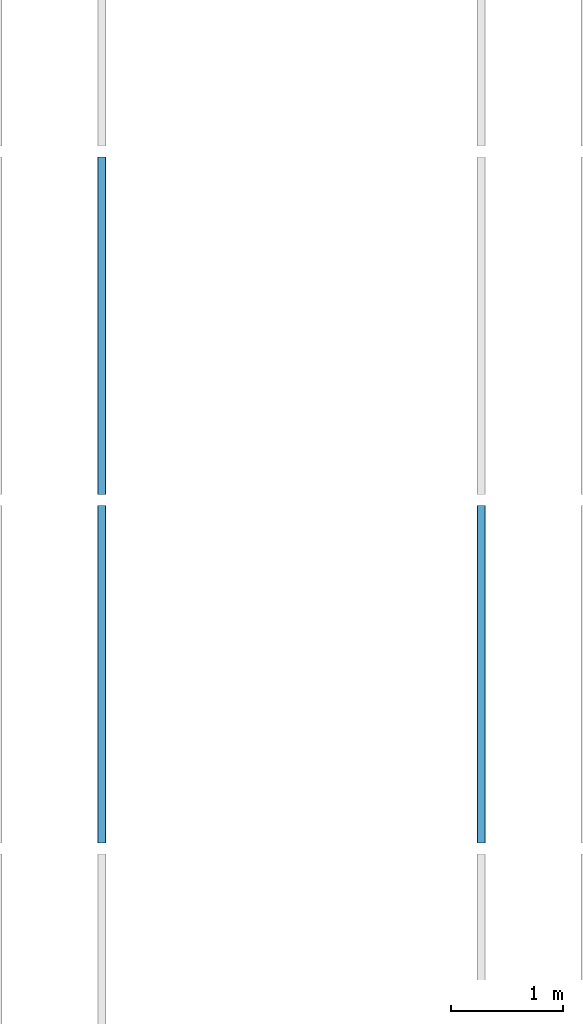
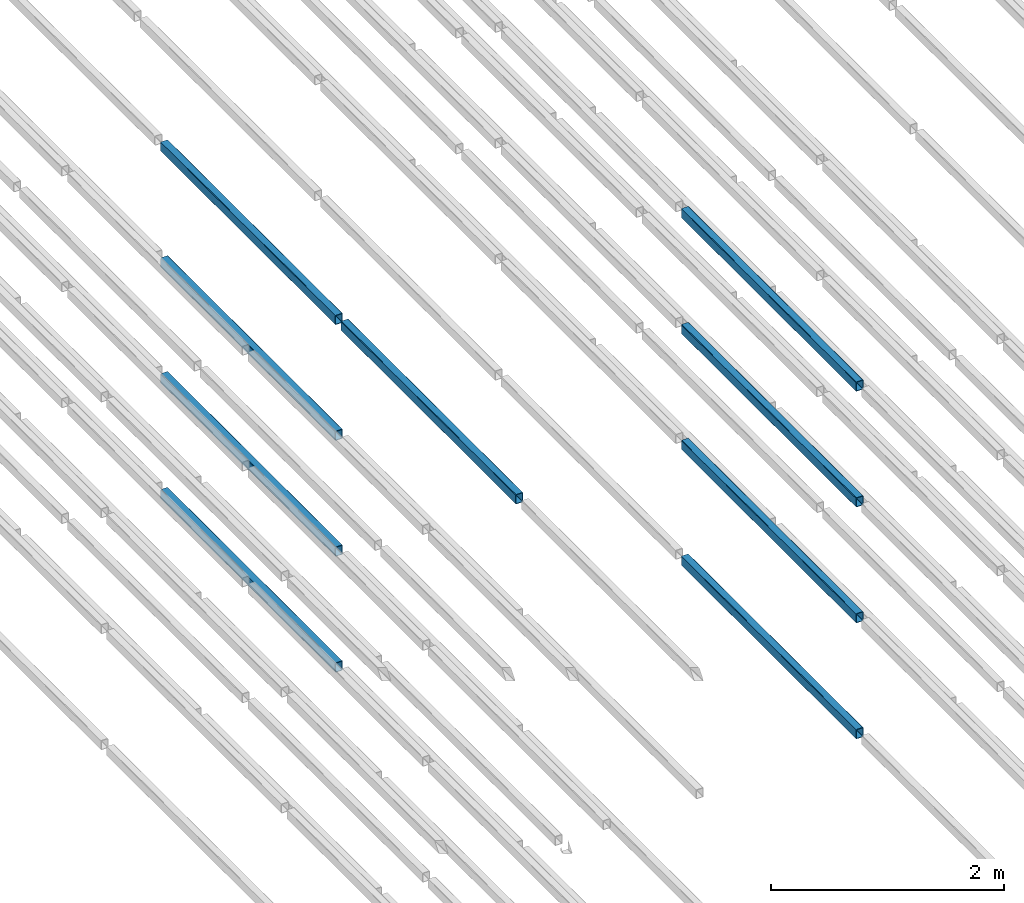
# One storey, part 50 of 290: 9 beams.
"""IFC2X3 building model written with IfcOpenShell, lengths in metres."""

import ifcopenshell
import ifcopenshell.guid

model = None  # the IFC model being written
_history = None  # IfcOwnerHistory: only IFC2X3 demands one
_inside = {}  # id of a spatial element -> (the spatial element, [elements in it])
_under = {}  # id of a project, library or spatial element -> (it, [spatial elements below it])
_declared = {}  # id of a project -> (the project, [libraries it declares])
_typed = {}  # id of a type object -> (the type object, [elements of that type])
_made_of = {}  # id of a material, layer set ... -> (it, [elements and type objects made of it])


def new_model(schema):
    """Start an empty IFC model of exactly this schema.

    Asked for "IFC4X3", IfcOpenShell would pick the latest addendum, in which some entities
    have other attributes; the version numbers below select the first issue.
    IFC2X3 requires an IfcOwnerHistory on every rooted entity: one is made here for all.
    """
    global model, _history
    if schema == "IFC4X3":
        model = ifcopenshell.file(schema_version=(4, 3, 0, 0))
    else:
        model = ifcopenshell.file(schema=schema)
    _inside.clear()
    _under.clear()
    _declared.clear()
    _typed.clear()
    _made_of.clear()
    _history = None
    if model.schema == "IFC2X3":
        org = make("IfcOrganization", Name="unknown")
        user = make(
            "IfcPersonAndOrganization",
            ThePerson=make("IfcPerson", FamilyName="unknown"),
            TheOrganization=org,
        )
        app = make(
            "IfcApplication",
            ApplicationDeveloper=org,
            Version="unknown",
            ApplicationFullName="unknown",
            ApplicationIdentifier="unknown",
        )
        _history = make(
            "IfcOwnerHistory",
            OwningUser=user,
            OwningApplication=app,
            ChangeAction="ADDED",
            CreationDate=0,
        )
    return model


def make(cls, **values):
    """One entity of the class cls with the attributes given. An attribute that is None is left unset."""
    return model.create_entity(
        cls, **{name: value for name, value in values.items() if value is not None}
    )


def entity(cls, *values):
    """Any entity or typed value of the class cls, its attributes in the order of the schema. None: left unset."""
    e = model.create_entity(cls)
    for i, value in enumerate(values):
        if value is not None:
            e[i] = value
    return e


def rooted(cls, **values):
    """An entity with a GlobalId (a new one), such as an element, a storey or a relation."""
    return make(cls, GlobalId=ifcopenshell.guid.new(), OwnerHistory=_history, **values)


def si_unit(unit_type, name, prefix=None):
    """IfcSIUnit, for example si_unit("LENGTHUNIT", "METRE", prefix="MILLI")."""
    return make("IfcSIUnit", UnitType=unit_type, Prefix=prefix, Name=name)


def converted_unit(unit_type, name, factor, base, dimensions=None, offset=None):
    """IfcConversionBasedUnit, such as the inch: factor (a typed value) times the base unit."""
    return make(
        "IfcConversionBasedUnit"
        if offset is None
        else "IfcConversionBasedUnitWithOffset",
        ConversionOffset=offset,
        Dimensions=None
        if dimensions is None
        else entity("IfcDimensionalExponents", *dimensions),
        UnitType=unit_type,
        Name=name,
        ConversionFactor=make(
            "IfcMeasureWithUnit", ValueComponent=factor, UnitComponent=base
        ),
    )


def derived_unit(unit_type, elements):
    """IfcDerivedUnit: a product of units, each with its exponent."""
    return make(
        "IfcDerivedUnit",
        Elements=[
            make("IfcDerivedUnitElement", Unit=unit, Exponent=power)
            for unit, power in elements
        ],
        UnitType=unit_type,
    )


def assignment(units):
    """IfcUnitAssignment: the units of a project."""
    return None if units is None else make("IfcUnitAssignment", Units=units)


def point(xyz):
    """IfcCartesianPoint."""
    return None if xyz is None else make("IfcCartesianPoint", Coordinates=xyz)


def direction(xyz):
    """IfcDirection."""
    return None if xyz is None else make("IfcDirection", DirectionRatios=xyz)


def frame(location, z_axis=None, x_axis=None):
    """IfcAxis2Placement3D, a coordinate frame: its origin and axes. An axis left out is left unset."""
    return make(
        "IfcAxis2Placement3D",
        Location=point(location),
        Axis=direction(z_axis),
        RefDirection=direction(x_axis),
    )


def frame_2d(location, x_axis=None):
    """IfcAxis2Placement2D, a coordinate frame in the plane: its origin and x axis."""
    return make(
        "IfcAxis2Placement2D", Location=point(location), RefDirection=direction(x_axis)
    )


def origin():
    """The frame at (0, 0, 0) with its axes left unset."""
    return frame((0.0, 0.0, 0.0))


def place(relative_to, where):
    """IfcLocalPlacement: puts the frame where relative to a parent placement (None: the world)."""
    return make(
        "IfcLocalPlacement", PlacementRelTo=relative_to, RelativePlacement=where
    )


def context(
    kind, dimensions, precision=None, world=None, true_north=None, identifier=None
):
    """IfcGeometricRepresentationContext, for example the 3D "Model" context."""
    return make(
        "IfcGeometricRepresentationContext",
        ContextIdentifier=identifier,
        ContextType=kind,
        CoordinateSpaceDimension=dimensions,
        Precision=precision,
        WorldCoordinateSystem=world,
        TrueNorth=true_north,
    )


def subcontext(parent, identifier, kind, view, scale=None):
    """IfcGeometricRepresentationSubContext, for example "Body" below "Model"."""
    return make(
        "IfcGeometricRepresentationSubContext",
        ContextIdentifier=identifier,
        ContextType=kind,
        ParentContext=parent,
        TargetScale=scale,
        TargetView=view,
    )


def project(units=None, contexts=None):
    """IfcProject with its units and contexts."""
    return rooted(
        "IfcProject",
        Name="project",
        RepresentationContexts=contexts,
        UnitsInContext=assignment(units),
    )


def spatial(cls, under=None, at=None, **own):
    """A site, building, storey or space (cls), placed at a placement, below another one or the project."""
    s = rooted(cls, ObjectPlacement=at, **own)
    if under is not None:
        _under.setdefault(under.id(), (under, []))[1].append(s)
    return s


def polyline(points):
    """IfcPolyline through the points."""
    return make("IfcPolyline", Points=[point(p) for p in points])


def circle_curve(where, radius):
    """IfcCircle in the frame where."""
    return make("IfcCircle", Position=where, Radius=radius)


def parameter(value):
    """IfcParameterValue: where a trimmed curve begins or ends, as a parameter of its basis curve."""
    return model.create_entity("IfcParameterValue", value)


def trimmed(basis, trim1, trim2, sense, master):
    """IfcTrimmedCurve: the piece of a basis curve between two trims."""
    return make(
        "IfcTrimmedCurve",
        BasisCurve=basis,
        Trim1=trim1,
        Trim2=trim2,
        SenseAgreement=sense,
        MasterRepresentation=master,
    )


def segment(curve, same_sense, transition):
    """IfcCompositeCurveSegment."""
    return make(
        "IfcCompositeCurveSegment",
        Transition=transition,
        SameSense=same_sense,
        ParentCurve=curve,
    )


def composite_curve(segments, self_intersect=None):
    """IfcCompositeCurve: segments joined end to end."""
    return make("IfcCompositeCurve", Segments=segments, SelfIntersect=self_intersect)


def outline(outer, holes=None, kind="AREA"):
    """IfcArbitraryClosedProfileDef: a profile drawn as a closed curve; with holes, ...WithVoids."""
    if holes is None:
        return make("IfcArbitraryClosedProfileDef", ProfileType=kind, OuterCurve=outer)
    return make(
        "IfcArbitraryProfileDefWithVoids",
        ProfileType=kind,
        OuterCurve=outer,
        InnerCurves=holes,
    )


def extrude(swept, where, along, depth):
    """IfcExtrudedAreaSolid: the profile swept, set in the frame where, extruded along a direction by depth."""
    return make(
        "IfcExtrudedAreaSolid",
        SweptArea=swept,
        Position=where,
        ExtrudedDirection=direction(along),
        Depth=depth,
    )


def shape(context_of_items, identifier, shape_type, items):
    """IfcShapeRepresentation: the items that make up one representation, for example the "Body"."""
    return make(
        "IfcShapeRepresentation",
        ContextOfItems=context_of_items,
        RepresentationIdentifier=identifier,
        RepresentationType=shape_type,
        Items=items,
    )


def material(Name=None, Category=None):
    """IfcMaterial."""
    return make("IfcMaterial", Name=Name, Category=Category)


def made_of(thing, what):
    """Note that an element or type object is made of a material, layer set ...; save() writes the relation."""
    if what is not None:
        _made_of.setdefault(what.id(), (what, []))[1].append(thing)
    return thing


def type_object(cls, material=None, **own):
    """A type object (cls), such as IfcWallType, which elements share."""
    return made_of(rooted(cls, **own), material)


def element(
    cls,
    number,
    at=None,
    inside=None,
    cuts=None,
    type_object=None,
    material=None,
    context=None,
    identifier="Body",
    shape_type=None,
    held_by="IfcProductDefinitionShape",
    body=None,
    shapes=None,
    **own,
):
    """One element of the class cls, such as IfcWall. Its Tag is "e" and its number.

    at: its placement. inside: the storey or other place that contains it. cuts: it is an
    opening in that element (IfcRelVoidsElement). A single representation is given by context,
    identifier, shape_type and body (its items); several are given by shapes. held_by: the class
    of the entity that holds the representations. save() writes the other relations.
    """
    e = rooted(cls, Tag="e%d" % number, ObjectPlacement=at, **own)
    if body is not None:
        shapes = [shape(context, identifier, shape_type, body)]
    if shapes is not None:
        e.Representation = make(held_by, Representations=shapes)
    if inside is not None:
        _inside.setdefault(inside.id(), (inside, []))[1].append(e)
    if cuts is not None:
        rooted(
            "IfcRelVoidsElement", RelatingBuildingElement=cuts, RelatedOpeningElement=e
        )
    if type_object is not None:
        _typed.setdefault(type_object.id(), (type_object, []))[1].append(e)
    return made_of(e, material)


def aggregate(whole, parts):
    """IfcRelAggregates: a whole, such as a stair, and the parts it consists of."""
    return rooted("IfcRelAggregates", RelatingObject=whole, RelatedObjects=parts)


def save(model, path):
    """Write the relations noted so far, then the file.

    IfcRelAggregates (storeys below a building ...), IfcRelContainedInSpatialStructure (elements
    in a storey), IfcRelDefinesByType, IfcRelAssociatesMaterial and IfcRelDeclares: one each for
    every whole, place, type object, material and project.
    """
    for whole, parts in _under.values():
        aggregate(whole, parts)
    for where, things in _inside.values():
        rooted(
            "IfcRelContainedInSpatialStructure",
            RelatedElements=things,
            RelatingStructure=where,
        )
    for kind, things in _typed.values():
        rooted("IfcRelDefinesByType", RelatedObjects=things, RelatingType=kind)
    for what, things in _made_of.values():
        rooted("IfcRelAssociatesMaterial", RelatedObjects=things, RelatingMaterial=what)
    for by, libraries in _declared.values():
        rooted("IfcRelDeclares", RelatingContext=by, RelatedDefinitions=libraries)
    model.write(path)


model = new_model("IFC2X3")

# Units and contexts
model_context = context("Model", 3, precision=1e-05, world=origin(), true_north=direction((6.12303176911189e-17, 1.0)))
body_context = subcontext(model_context, "Body", "Model", "MODEL_VIEW")
ifc_project = project(units=[si_unit("LENGTHUNIT", "METRE"), si_unit("AREAUNIT", "SQUARE_METRE"), si_unit("VOLUMEUNIT", "CUBIC_METRE"), converted_unit("PLANEANGLEUNIT", "DEGREE", entity("IfcRatioMeasure", 0.0174532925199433), si_unit("PLANEANGLEUNIT", "RADIAN"), dimensions=[0, 0, 0, 0, 0, 0, 0]), si_unit("MASSUNIT", "GRAM", prefix="KILO"), derived_unit("MASSDENSITYUNIT", [(si_unit("MASSUNIT", "GRAM", prefix="KILO"), 1), (si_unit("LENGTHUNIT", "METRE"), -3)]), derived_unit("MOMENTOFINERTIAUNIT", [(si_unit("LENGTHUNIT", "METRE"), 4)]), si_unit("TIMEUNIT", "SECOND"), si_unit("FREQUENCYUNIT", "HERTZ"), si_unit("THERMODYNAMICTEMPERATUREUNIT", "DEGREE_CELSIUS"), derived_unit("THERMALTRANSMITTANCEUNIT", [(si_unit("MASSUNIT", "GRAM", prefix="KILO"), 1), (si_unit("THERMODYNAMICTEMPERATUREUNIT", "KELVIN"), -1), (si_unit("TIMEUNIT", "SECOND"), -3)]), derived_unit("VOLUMETRICFLOWRATEUNIT", [(si_unit("LENGTHUNIT", "METRE"), 3), (si_unit("TIMEUNIT", "SECOND"), -1)]), si_unit("ELECTRICCURRENTUNIT", "AMPERE"), si_unit("ELECTRICVOLTAGEUNIT", "VOLT"), si_unit("POWERUNIT", "WATT"), si_unit("FORCEUNIT", "NEWTON", prefix="KILO"), si_unit("ILLUMINANCEUNIT", "LUX"), si_unit("LUMINOUSFLUXUNIT", "LUMEN"), si_unit("LUMINOUSINTENSITYUNIT", "CANDELA"), derived_unit("USERDEFINED", [(si_unit("MASSUNIT", "GRAM", prefix="KILO"), -1), (si_unit("LENGTHUNIT", "METRE"), -2), (si_unit("TIMEUNIT", "SECOND"), 3), (si_unit("LUMINOUSFLUXUNIT", "LUMEN"), 1)]), derived_unit("LINEARVELOCITYUNIT", [(si_unit("LENGTHUNIT", "METRE"), 1), (si_unit("TIMEUNIT", "SECOND"), -1)]), si_unit("PRESSUREUNIT", "PASCAL"), derived_unit("USERDEFINED", [(si_unit("LENGTHUNIT", "METRE"), -2), (si_unit("MASSUNIT", "GRAM", prefix="KILO"), 1), (si_unit("TIMEUNIT", "SECOND"), -2)]), derived_unit("LINEARFORCEUNIT", [(si_unit("MASSUNIT", "GRAM", prefix="KILO"), 1), (si_unit("LENGTHUNIT", "METRE"), 1), (si_unit("TIMEUNIT", "SECOND"), -2), (si_unit("LENGTHUNIT", "METRE"), -1)]), derived_unit("PLANARFORCEUNIT", [(si_unit("MASSUNIT", "GRAM", prefix="KILO"), 1), (si_unit("LENGTHUNIT", "METRE"), 1), (si_unit("TIMEUNIT", "SECOND"), -2), (si_unit("LENGTHUNIT", "METRE"), -2)])], contexts=[model_context])

# Site, building, storey
site_placement = place(None, origin())
site = spatial("IfcSite", under=ifc_project, at=site_placement, Name="Default", CompositionType="ELEMENT")
building_placement = place(site_placement, origin())
building = spatial("IfcBuilding", under=site, at=building_placement, CompositionType="ELEMENT")
storey_placement = place(building_placement, frame((0.0, 0.0, 4.0)))
storey = spatial("IfcBuildingStorey", under=building, at=storey_placement, Name="01_OG", CompositionType="ELEMENT", Elevation=4.0)

# Beams
ifc_material = material(Name="Metall - Baustahl S235 blau")
beam_type = type_object("IfcBeamType", Name="RHS Träger (EN 10219-2):RHS 100 x 75 x 5", PredefinedType="NOTDEFINED")
beam_1_placement = place(storey_placement, frame((-194.165111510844, 30.248088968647, 2.445), z_axis=(0.0, 0.0, 1.0), x_axis=(0.0, 1.0, 0.0)))
element("IfcBeam", 1, at=beam_1_placement, inside=storey, type_object=beam_type, material=ifc_material, Name="RHS Träger (EN 10219-2):RHS 100 x 75 x 5", ObjectType="RHS Träger (EN 10219-2):RHS 100 x 75 x 5", context=body_context, shape_type="SweptSolid", body=[
    extrude(outline(composite_curve([segment(polyline([(-0.0399999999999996, -0.0374999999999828), (0.0399999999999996, -0.0374999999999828)]), True, "CONTINUOUS"), segment(trimmed(circle_curve(frame_2d((0.0399999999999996, -0.0274999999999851), x_axis=(0.0, 1.0)), 0.01), [parameter(180.0)], [parameter(270.0)], True, "PARAMETER"), True, "CONTINUOUS"), segment(polyline([(0.0500000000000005, -0.0274999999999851), (0.0500000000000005, 0.0274999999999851)]), True, "CONTINUOUS"), segment(trimmed(circle_curve(frame_2d((0.0399999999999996, 0.0274999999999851), x_axis=(0.0, 1.0)), 0.01), [parameter(270.0)], [parameter(4.07110999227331e-13)], True, "PARAMETER"), True, "CONTINUOUS"), segment(polyline([(0.0399999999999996, 0.0375000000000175), (-0.0399999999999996, 0.0375000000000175)]), True, "CONTINUOUS"), segment(trimmed(circle_curve(frame_2d((-0.0399999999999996, 0.0274999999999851), x_axis=(0.0, 1.0)), 0.01), [parameter(360.0)], [parameter(90.0000000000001)], True, "PARAMETER"), True, "CONTINUOUS"), segment(polyline([(-0.0499999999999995, 0.0274999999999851), (-0.0499999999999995, -0.0274999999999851)]), True, "CONTINUOUS"), segment(trimmed(circle_curve(frame_2d((-0.0399999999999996, -0.0274999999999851), x_axis=(0.0, 1.0)), 0.01), [parameter(90.0000000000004)], [parameter(180.0)], True, "PARAMETER"), True, "CONTINUOUS")], self_intersect=False), holes=[composite_curve([segment(trimmed(circle_curve(frame_2d((-0.0400000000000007, 0.0274999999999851), x_axis=(0.0, 1.0)), 0.005), [parameter(360.0)], [parameter(89.9999999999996)], True, "PARAMETER"), False, "CONTINUOUS"), segment(polyline([(-0.0400000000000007, 0.0325000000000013), (0.0399999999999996, 0.0325000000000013)]), True, "CONTINUOUS"), segment(trimmed(circle_curve(frame_2d((0.0399999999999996, 0.0274999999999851), x_axis=(0.0, 1.0)), 0.005), [parameter(270.0)], [parameter(0.0)], True, "PARAMETER"), False, "CONTINUOUS"), segment(polyline([(0.0449999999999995, 0.0274999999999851), (0.0449999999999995, -0.0274999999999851)]), True, "CONTINUOUS"), segment(trimmed(circle_curve(frame_2d((0.0399999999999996, -0.0274999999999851), x_axis=(0.0, 1.0)), 0.005), [parameter(180.0)], [parameter(269.999999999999)], True, "PARAMETER"), False, "CONTINUOUS"), segment(polyline([(0.0399999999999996, -0.0325000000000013), (-0.0400000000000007, -0.0325000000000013)]), True, "CONTINUOUS"), segment(trimmed(circle_curve(frame_2d((-0.0400000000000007, -0.0274999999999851), x_axis=(0.0, 1.0)), 0.005), [parameter(90.0000000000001)], [parameter(180.0)], True, "PARAMETER"), False, "CONTINUOUS"), segment(polyline([(-0.0450000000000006, -0.0274999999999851), (-0.0450000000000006, 0.0274999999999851)]), True, "CONTINUOUS")], self_intersect=False)]), frame((9.99999999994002e-05, -0.0375000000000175, -0.0500000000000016), z_axis=(1.0, 0.0, 0.0), x_axis=(0.0, 0.0, -1.0)), (0.0, 0.0, 1.0), 2.9998),
])
beam_2_placement = place(storey_placement, frame((-190.715111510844, 30.248088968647, -1.2), z_axis=(0.0, 0.0, 1.0), x_axis=(0.0, 1.0, 0.0)))
element("IfcBeam", 2, at=beam_2_placement, inside=storey, type_object=beam_type, material=ifc_material, Name="RHS Träger (EN 10219-2):RHS 100 x 75 x 5", ObjectType="RHS Träger (EN 10219-2):RHS 100 x 75 x 5", context=body_context, shape_type="SweptSolid", body=[
    extrude(outline(composite_curve([segment(trimmed(circle_curve(frame_2d((-0.0274999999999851, -0.0400000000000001), x_axis=(1.0, 0.0)), 0.01), [parameter(180.0)], [parameter(270.0)], True, "PARAMETER"), True, "CONTINUOUS"), segment(polyline([(-0.0274999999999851, -0.05), (0.0274999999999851, -0.05)]), True, "CONTINUOUS"), segment(trimmed(circle_curve(frame_2d((0.0274999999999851, -0.0400000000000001), x_axis=(1.0, 0.0)), 0.01), [parameter(270.0)], [parameter(5.08888749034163e-14)], True, "PARAMETER"), True, "CONTINUOUS"), segment(polyline([(0.0375000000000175, -0.0400000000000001), (0.0375000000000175, 0.0400000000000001)]), True, "CONTINUOUS"), segment(trimmed(circle_curve(frame_2d((0.0274999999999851, 0.0400000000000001), x_axis=(1.0, 0.0)), 0.01), [parameter(360.0)], [parameter(89.9999999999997)], True, "PARAMETER"), True, "CONTINUOUS"), segment(polyline([(0.0274999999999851, 0.05), (-0.0274999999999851, 0.05)]), True, "CONTINUOUS"), segment(trimmed(circle_curve(frame_2d((-0.0274999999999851, 0.0400000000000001), x_axis=(1.0, 0.0)), 0.01), [parameter(90.0000000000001)], [parameter(180.0)], True, "PARAMETER"), True, "CONTINUOUS"), segment(polyline([(-0.0374999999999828, 0.0400000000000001), (-0.0374999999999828, -0.0400000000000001)]), True, "CONTINUOUS")], self_intersect=False), holes=[composite_curve([segment(polyline([(0.0274999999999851, -0.0450000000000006), (-0.0274999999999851, -0.0450000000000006)]), True, "CONTINUOUS"), segment(trimmed(circle_curve(frame_2d((-0.0274999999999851, -0.0400000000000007), x_axis=(1.0, 0.0)), 0.005), [parameter(180.0)], [parameter(270.0)], True, "PARAMETER"), False, "CONTINUOUS"), segment(polyline([(-0.0325000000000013, -0.0400000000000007), (-0.0325000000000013, 0.039999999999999)]), True, "CONTINUOUS"), segment(trimmed(circle_curve(frame_2d((-0.0274999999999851, 0.039999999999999), x_axis=(1.0, 0.0)), 0.005), [parameter(90.0000000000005)], [parameter(180.0)], True, "PARAMETER"), False, "CONTINUOUS"), segment(polyline([(-0.0274999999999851, 0.044999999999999), (0.0274999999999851, 0.044999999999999)]), True, "CONTINUOUS"), segment(trimmed(circle_curve(frame_2d((0.0274999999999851, 0.039999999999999), x_axis=(1.0, 0.0)), 0.005), [parameter(0.0)], [parameter(90.0000000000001)], True, "PARAMETER"), False, "CONTINUOUS"), segment(polyline([(0.0325000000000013, 0.039999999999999), (0.0325000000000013, -0.0400000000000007)]), True, "CONTINUOUS"), segment(trimmed(circle_curve(frame_2d((0.0274999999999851, -0.0400000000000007), x_axis=(1.0, 0.0)), 0.005), [parameter(270.0)], [parameter(4.07110999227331e-13)], True, "PARAMETER"), False, "CONTINUOUS")], self_intersect=False)]), frame((0.000100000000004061, 0.0375000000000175, -0.0500000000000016), z_axis=(1.0, 0.0, 0.0), x_axis=(0.0, -1.0, 0.0)), (0.0, 0.0, 1.0), 2.9998),
])
beam_3_placement = place(storey_placement, frame((-190.715111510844, 30.248088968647, 0.0150000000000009), z_axis=(0.0, 0.0, 1.0), x_axis=(0.0, 1.0, 0.0)))
element("IfcBeam", 3, at=beam_3_placement, inside=storey, type_object=beam_type, material=ifc_material, Name="RHS Träger (EN 10219-2):RHS 100 x 75 x 5", ObjectType="RHS Träger (EN 10219-2):RHS 100 x 75 x 5", context=body_context, shape_type="SweptSolid", body=[
    extrude(outline(composite_curve([segment(trimmed(circle_curve(frame_2d((-0.0274999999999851, -0.0400000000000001), x_axis=(1.0, 0.0)), 0.01), [parameter(180.0)], [parameter(270.0)], True, "PARAMETER"), True, "CONTINUOUS"), segment(polyline([(-0.0274999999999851, -0.05), (0.0274999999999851, -0.05)]), True, "CONTINUOUS"), segment(trimmed(circle_curve(frame_2d((0.0274999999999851, -0.0400000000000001), x_axis=(1.0, 0.0)), 0.01), [parameter(270.0)], [parameter(5.08888749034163e-14)], True, "PARAMETER"), True, "CONTINUOUS"), segment(polyline([(0.0375000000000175, -0.0400000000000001), (0.0375000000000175, 0.0400000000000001)]), True, "CONTINUOUS"), segment(trimmed(circle_curve(frame_2d((0.0274999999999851, 0.0400000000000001), x_axis=(1.0, 0.0)), 0.01), [parameter(360.0)], [parameter(89.9999999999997)], True, "PARAMETER"), True, "CONTINUOUS"), segment(polyline([(0.0274999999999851, 0.05), (-0.0274999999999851, 0.05)]), True, "CONTINUOUS"), segment(trimmed(circle_curve(frame_2d((-0.0274999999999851, 0.0400000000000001), x_axis=(1.0, 0.0)), 0.01), [parameter(90.0000000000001)], [parameter(180.0)], True, "PARAMETER"), True, "CONTINUOUS"), segment(polyline([(-0.0374999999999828, 0.0400000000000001), (-0.0374999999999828, -0.0400000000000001)]), True, "CONTINUOUS")], self_intersect=False), holes=[composite_curve([segment(polyline([(0.0274999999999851, -0.0450000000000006), (-0.0274999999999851, -0.0450000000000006)]), True, "CONTINUOUS"), segment(trimmed(circle_curve(frame_2d((-0.0274999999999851, -0.0400000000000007), x_axis=(1.0, 0.0)), 0.005), [parameter(180.0)], [parameter(270.0)], True, "PARAMETER"), False, "CONTINUOUS"), segment(polyline([(-0.0325000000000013, -0.0400000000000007), (-0.0325000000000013, 0.039999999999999)]), True, "CONTINUOUS"), segment(trimmed(circle_curve(frame_2d((-0.0274999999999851, 0.039999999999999), x_axis=(1.0, 0.0)), 0.005), [parameter(90.0000000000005)], [parameter(180.0)], True, "PARAMETER"), False, "CONTINUOUS"), segment(polyline([(-0.0274999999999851, 0.044999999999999), (0.0274999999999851, 0.044999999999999)]), True, "CONTINUOUS"), segment(trimmed(circle_curve(frame_2d((0.0274999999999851, 0.039999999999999), x_axis=(1.0, 0.0)), 0.005), [parameter(0.0)], [parameter(90.0000000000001)], True, "PARAMETER"), False, "CONTINUOUS"), segment(polyline([(0.0325000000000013, 0.039999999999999), (0.0325000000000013, -0.0400000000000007)]), True, "CONTINUOUS"), segment(trimmed(circle_curve(frame_2d((0.0274999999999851, -0.0400000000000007), x_axis=(1.0, 0.0)), 0.005), [parameter(270.0)], [parameter(4.07110999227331e-13)], True, "PARAMETER"), False, "CONTINUOUS")], self_intersect=False)]), frame((0.000100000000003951, 0.0375000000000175, -0.0500000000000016), z_axis=(1.0, 0.0, 0.0), x_axis=(0.0, -1.0, 0.0)), (0.0, 0.0, 1.0), 2.9998),
])
beam_4_placement = place(storey_placement, frame((-190.715111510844, 30.248088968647, 1.23), z_axis=(0.0, 0.0, 1.0), x_axis=(0.0, 1.0, 0.0)))
element("IfcBeam", 4, at=beam_4_placement, inside=storey, type_object=beam_type, material=ifc_material, Name="RHS Träger (EN 10219-2):RHS 100 x 75 x 5", ObjectType="RHS Träger (EN 10219-2):RHS 100 x 75 x 5", context=body_context, shape_type="SweptSolid", body=[
    extrude(outline(composite_curve([segment(trimmed(circle_curve(frame_2d((-0.0274999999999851, -0.0399999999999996), x_axis=(1.0, 0.0)), 0.01), [parameter(180.0)], [parameter(270.0)], True, "PARAMETER"), True, "CONTINUOUS"), segment(polyline([(-0.0274999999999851, -0.0499999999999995), (0.0274999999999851, -0.0499999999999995)]), True, "CONTINUOUS"), segment(trimmed(circle_curve(frame_2d((0.0274999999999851, -0.0399999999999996), x_axis=(1.0, 0.0)), 0.01), [parameter(270.0)], [parameter(5.08888749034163e-14)], True, "PARAMETER"), True, "CONTINUOUS"), segment(polyline([(0.0375000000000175, -0.0399999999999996), (0.0375000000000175, 0.0399999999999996)]), True, "CONTINUOUS"), segment(trimmed(circle_curve(frame_2d((0.0274999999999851, 0.0399999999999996), x_axis=(1.0, 0.0)), 0.01), [parameter(360.0)], [parameter(89.9999999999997)], True, "PARAMETER"), True, "CONTINUOUS"), segment(polyline([(0.0274999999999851, 0.0500000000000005), (-0.0274999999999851, 0.0500000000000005)]), True, "CONTINUOUS"), segment(trimmed(circle_curve(frame_2d((-0.0274999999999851, 0.0399999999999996), x_axis=(1.0, 0.0)), 0.01), [parameter(90.0000000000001)], [parameter(180.0)], True, "PARAMETER"), True, "CONTINUOUS"), segment(polyline([(-0.0374999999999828, 0.0399999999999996), (-0.0374999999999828, -0.0399999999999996)]), True, "CONTINUOUS")], self_intersect=False), holes=[composite_curve([segment(polyline([(0.0274999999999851, -0.0450000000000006), (-0.0274999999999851, -0.0450000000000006)]), True, "CONTINUOUS"), segment(trimmed(circle_curve(frame_2d((-0.0274999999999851, -0.0400000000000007), x_axis=(1.0, 0.0)), 0.005), [parameter(180.0)], [parameter(270.0)], True, "PARAMETER"), False, "CONTINUOUS"), segment(polyline([(-0.0325000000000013, -0.0400000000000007), (-0.0325000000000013, 0.0399999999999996)]), True, "CONTINUOUS"), segment(trimmed(circle_curve(frame_2d((-0.0274999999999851, 0.0399999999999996), x_axis=(1.0, 0.0)), 0.005), [parameter(90.0000000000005)], [parameter(180.0)], True, "PARAMETER"), False, "CONTINUOUS"), segment(polyline([(-0.0274999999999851, 0.0449999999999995), (0.0274999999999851, 0.0449999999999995)]), True, "CONTINUOUS"), segment(trimmed(circle_curve(frame_2d((0.0274999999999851, 0.0399999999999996), x_axis=(1.0, 0.0)), 0.005), [parameter(0.0)], [parameter(90.0000000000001)], True, "PARAMETER"), False, "CONTINUOUS"), segment(polyline([(0.0325000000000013, 0.0399999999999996), (0.0325000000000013, -0.0400000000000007)]), True, "CONTINUOUS"), segment(trimmed(circle_curve(frame_2d((0.0274999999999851, -0.0400000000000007), x_axis=(1.0, 0.0)), 0.005), [parameter(270.0)], [parameter(4.07110999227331e-13)], True, "PARAMETER"), False, "CONTINUOUS")], self_intersect=False)]), frame((0.000100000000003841, 0.0375000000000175, -0.0500000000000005), z_axis=(1.0, 0.0, 0.0), x_axis=(0.0, -1.0, 0.0)), (0.0, 0.0, 1.0), 2.9998),
])
beam_5_placement = place(storey_placement, frame((-190.715111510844, 30.248088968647, 2.445), z_axis=(0.0, 0.0, 1.0), x_axis=(0.0, 1.0, 0.0)))
element("IfcBeam", 5, at=beam_5_placement, inside=storey, type_object=beam_type, material=ifc_material, Name="RHS Träger (EN 10219-2):RHS 100 x 75 x 5", ObjectType="RHS Träger (EN 10219-2):RHS 100 x 75 x 5", context=body_context, shape_type="SweptSolid", body=[
    extrude(outline(composite_curve([segment(trimmed(circle_curve(frame_2d((-0.0274999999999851, -0.0399999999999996), x_axis=(1.0, 0.0)), 0.01), [parameter(180.0)], [parameter(270.0)], True, "PARAMETER"), True, "CONTINUOUS"), segment(polyline([(-0.0274999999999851, -0.0499999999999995), (0.0274999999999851, -0.0499999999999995)]), True, "CONTINUOUS"), segment(trimmed(circle_curve(frame_2d((0.0274999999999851, -0.0399999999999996), x_axis=(1.0, 0.0)), 0.01), [parameter(270.0)], [parameter(5.08888749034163e-14)], True, "PARAMETER"), True, "CONTINUOUS"), segment(polyline([(0.0375000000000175, -0.0399999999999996), (0.0375000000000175, 0.0399999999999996)]), True, "CONTINUOUS"), segment(trimmed(circle_curve(frame_2d((0.0274999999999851, 0.0399999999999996), x_axis=(1.0, 0.0)), 0.01), [parameter(360.0)], [parameter(89.9999999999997)], True, "PARAMETER"), True, "CONTINUOUS"), segment(polyline([(0.0274999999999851, 0.0500000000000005), (-0.0274999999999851, 0.0500000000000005)]), True, "CONTINUOUS"), segment(trimmed(circle_curve(frame_2d((-0.0274999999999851, 0.0399999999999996), x_axis=(1.0, 0.0)), 0.01), [parameter(90.0000000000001)], [parameter(180.0)], True, "PARAMETER"), True, "CONTINUOUS"), segment(polyline([(-0.0374999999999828, 0.0399999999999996), (-0.0374999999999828, -0.0399999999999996)]), True, "CONTINUOUS")], self_intersect=False), holes=[composite_curve([segment(polyline([(0.0274999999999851, -0.0450000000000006), (-0.0274999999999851, -0.0450000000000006)]), True, "CONTINUOUS"), segment(trimmed(circle_curve(frame_2d((-0.0274999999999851, -0.0400000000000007), x_axis=(1.0, 0.0)), 0.005), [parameter(180.0)], [parameter(270.0)], True, "PARAMETER"), False, "CONTINUOUS"), segment(polyline([(-0.0325000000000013, -0.0400000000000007), (-0.0325000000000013, 0.0399999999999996)]), True, "CONTINUOUS"), segment(trimmed(circle_curve(frame_2d((-0.0274999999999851, 0.0399999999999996), x_axis=(1.0, 0.0)), 0.005), [parameter(90.0000000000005)], [parameter(180.0)], True, "PARAMETER"), False, "CONTINUOUS"), segment(polyline([(-0.0274999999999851, 0.0449999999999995), (0.0274999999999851, 0.0449999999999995)]), True, "CONTINUOUS"), segment(trimmed(circle_curve(frame_2d((0.0274999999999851, 0.0399999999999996), x_axis=(1.0, 0.0)), 0.005), [parameter(0.0)], [parameter(90.0000000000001)], True, "PARAMETER"), False, "CONTINUOUS"), segment(polyline([(0.0325000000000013, 0.0399999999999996), (0.0325000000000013, -0.0400000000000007)]), True, "CONTINUOUS"), segment(trimmed(circle_curve(frame_2d((0.0274999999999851, -0.0400000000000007), x_axis=(1.0, 0.0)), 0.005), [parameter(270.0)], [parameter(4.07110999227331e-13)], True, "PARAMETER"), False, "CONTINUOUS")], self_intersect=False)]), frame((0.000100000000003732, 0.0375000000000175, -0.0500000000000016), z_axis=(1.0, 0.0, 0.0), x_axis=(0.0, -1.0, 0.0)), (0.0, 0.0, 1.0), 2.9998),
])
beam_6_placement = place(storey_placement, frame((-194.165111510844, 33.348088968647, -1.2), z_axis=(0.0, 0.0, 1.0), x_axis=(0.0, 1.0, 0.0)))
element("IfcBeam", 6, at=beam_6_placement, inside=storey, type_object=beam_type, material=ifc_material, Name="RHS Träger (EN 10219-2):RHS 100 x 75 x 5", ObjectType="RHS Träger (EN 10219-2):RHS 100 x 75 x 5", context=body_context, shape_type="SweptSolid", body=[
    extrude(outline(composite_curve([segment(polyline([(-0.0400000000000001, -0.0374999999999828), (0.0400000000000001, -0.0374999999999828)]), True, "CONTINUOUS"), segment(trimmed(circle_curve(frame_2d((0.0400000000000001, -0.0274999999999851), x_axis=(0.0, 1.0)), 0.01), [parameter(180.0)], [parameter(270.0)], True, "PARAMETER"), True, "CONTINUOUS"), segment(polyline([(0.05, -0.0274999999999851), (0.05, 0.0274999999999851)]), True, "CONTINUOUS"), segment(trimmed(circle_curve(frame_2d((0.0400000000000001, 0.0274999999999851), x_axis=(0.0, 1.0)), 0.01), [parameter(270.0)], [parameter(4.07110999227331e-13)], True, "PARAMETER"), True, "CONTINUOUS"), segment(polyline([(0.0400000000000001, 0.0375000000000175), (-0.0400000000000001, 0.0375000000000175)]), True, "CONTINUOUS"), segment(trimmed(circle_curve(frame_2d((-0.0400000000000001, 0.0274999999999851), x_axis=(0.0, 1.0)), 0.01), [parameter(360.0)], [parameter(90.0000000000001)], True, "PARAMETER"), True, "CONTINUOUS"), segment(polyline([(-0.05, 0.0274999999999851), (-0.05, -0.0274999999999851)]), True, "CONTINUOUS"), segment(trimmed(circle_curve(frame_2d((-0.0400000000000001, -0.0274999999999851), x_axis=(0.0, 1.0)), 0.01), [parameter(90.0000000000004)], [parameter(180.0)], True, "PARAMETER"), True, "CONTINUOUS")], self_intersect=False), holes=[composite_curve([segment(trimmed(circle_curve(frame_2d((-0.0400000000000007, 0.0274999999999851), x_axis=(0.0, 1.0)), 0.005), [parameter(360.0)], [parameter(89.9999999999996)], True, "PARAMETER"), False, "CONTINUOUS"), segment(polyline([(-0.0400000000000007, 0.0325000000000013), (0.039999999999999, 0.0325000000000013)]), True, "CONTINUOUS"), segment(trimmed(circle_curve(frame_2d((0.039999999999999, 0.0274999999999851), x_axis=(0.0, 1.0)), 0.005), [parameter(270.0)], [parameter(0.0)], True, "PARAMETER"), False, "CONTINUOUS"), segment(polyline([(0.044999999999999, 0.0274999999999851), (0.044999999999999, -0.0274999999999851)]), True, "CONTINUOUS"), segment(trimmed(circle_curve(frame_2d((0.039999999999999, -0.0274999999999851), x_axis=(0.0, 1.0)), 0.005), [parameter(180.0)], [parameter(269.999999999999)], True, "PARAMETER"), False, "CONTINUOUS"), segment(polyline([(0.039999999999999, -0.0325000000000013), (-0.0400000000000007, -0.0325000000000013)]), True, "CONTINUOUS"), segment(trimmed(circle_curve(frame_2d((-0.0400000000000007, -0.0274999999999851), x_axis=(0.0, 1.0)), 0.005), [parameter(90.0000000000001)], [parameter(180.0)], True, "PARAMETER"), False, "CONTINUOUS"), segment(polyline([(-0.0450000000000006, -0.0274999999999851), (-0.0450000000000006, 0.0274999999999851)]), True, "CONTINUOUS")], self_intersect=False)]), frame((9.99999999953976e-05, -0.0375000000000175, -0.0500000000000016), z_axis=(1.0, 0.0, 0.0), x_axis=(0.0, 0.0, -1.0)), (0.0, 0.0, 1.0), 2.9998),
])
beam_7_placement = place(storey_placement, frame((-194.165111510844, 33.348088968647, 0.0150000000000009), z_axis=(0.0, 0.0, 1.0), x_axis=(0.0, 1.0, 0.0)))
element("IfcBeam", 7, at=beam_7_placement, inside=storey, type_object=beam_type, material=ifc_material, Name="RHS Träger (EN 10219-2):RHS 100 x 75 x 5", ObjectType="RHS Träger (EN 10219-2):RHS 100 x 75 x 5", context=body_context, shape_type="SweptSolid", body=[
    extrude(outline(composite_curve([segment(polyline([(-0.0400000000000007, -0.0374999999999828), (0.0399999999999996, -0.0374999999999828)]), True, "CONTINUOUS"), segment(trimmed(circle_curve(frame_2d((0.0399999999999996, -0.0274999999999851), x_axis=(0.0, 1.0)), 0.01), [parameter(180.0)], [parameter(270.0)], True, "PARAMETER"), True, "CONTINUOUS"), segment(polyline([(0.0499999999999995, -0.0274999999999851), (0.0499999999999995, 0.0274999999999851)]), True, "CONTINUOUS"), segment(trimmed(circle_curve(frame_2d((0.0399999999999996, 0.0274999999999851), x_axis=(0.0, 1.0)), 0.01), [parameter(270.0)], [parameter(4.07110999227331e-13)], True, "PARAMETER"), True, "CONTINUOUS"), segment(polyline([(0.0399999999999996, 0.0375000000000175), (-0.0400000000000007, 0.0375000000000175)]), True, "CONTINUOUS"), segment(trimmed(circle_curve(frame_2d((-0.0400000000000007, 0.0274999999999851), x_axis=(0.0, 1.0)), 0.01), [parameter(360.0)], [parameter(90.0000000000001)], True, "PARAMETER"), True, "CONTINUOUS"), segment(polyline([(-0.0500000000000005, 0.0274999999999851), (-0.0500000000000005, -0.0274999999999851)]), True, "CONTINUOUS"), segment(trimmed(circle_curve(frame_2d((-0.0400000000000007, -0.0274999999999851), x_axis=(0.0, 1.0)), 0.01), [parameter(90.0000000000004)], [parameter(180.0)], True, "PARAMETER"), True, "CONTINUOUS")], self_intersect=False), holes=[composite_curve([segment(trimmed(circle_curve(frame_2d((-0.0400000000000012, 0.0274999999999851), x_axis=(0.0, 1.0)), 0.005), [parameter(360.0)], [parameter(89.9999999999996)], True, "PARAMETER"), False, "CONTINUOUS"), segment(polyline([(-0.0400000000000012, 0.0325000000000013), (0.0399999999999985, 0.0325000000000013)]), True, "CONTINUOUS"), segment(trimmed(circle_curve(frame_2d((0.0399999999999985, 0.0274999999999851), x_axis=(0.0, 1.0)), 0.005), [parameter(270.0)], [parameter(0.0)], True, "PARAMETER"), False, "CONTINUOUS"), segment(polyline([(0.0449999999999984, 0.0274999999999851), (0.0449999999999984, -0.0274999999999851)]), True, "CONTINUOUS"), segment(trimmed(circle_curve(frame_2d((0.0399999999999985, -0.0274999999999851), x_axis=(0.0, 1.0)), 0.005), [parameter(180.0)], [parameter(269.999999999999)], True, "PARAMETER"), False, "CONTINUOUS"), segment(polyline([(0.0399999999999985, -0.0325000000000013), (-0.0400000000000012, -0.0325000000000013)]), True, "CONTINUOUS"), segment(trimmed(circle_curve(frame_2d((-0.0400000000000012, -0.0274999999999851), x_axis=(0.0, 1.0)), 0.005), [parameter(90.0000000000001)], [parameter(180.0)], True, "PARAMETER"), False, "CONTINUOUS"), segment(polyline([(-0.0450000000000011, -0.0274999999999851), (-0.0450000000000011, 0.0274999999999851)]), True, "CONTINUOUS")], self_intersect=False)]), frame((9.9999999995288e-05, -0.0375000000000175, -0.0500000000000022), z_axis=(1.0, 0.0, 0.0), x_axis=(0.0, 0.0, -1.0)), (0.0, 0.0, 1.0), 2.9998),
])
beam_8_placement = place(storey_placement, frame((-194.165111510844, 33.348088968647, 1.23), z_axis=(0.0, 0.0, 1.0), x_axis=(0.0, 1.0, 0.0)))
element("IfcBeam", 8, at=beam_8_placement, inside=storey, type_object=beam_type, material=ifc_material, Name="RHS Träger (EN 10219-2):RHS 100 x 75 x 5", ObjectType="RHS Träger (EN 10219-2):RHS 100 x 75 x 5", context=body_context, shape_type="SweptSolid", body=[
    extrude(outline(composite_curve([segment(polyline([(-0.0399999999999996, -0.0374999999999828), (0.0399999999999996, -0.0374999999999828)]), True, "CONTINUOUS"), segment(trimmed(circle_curve(frame_2d((0.0399999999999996, -0.0274999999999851), x_axis=(0.0, 1.0)), 0.01), [parameter(180.0)], [parameter(270.0)], True, "PARAMETER"), True, "CONTINUOUS"), segment(polyline([(0.0500000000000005, -0.0274999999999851), (0.0500000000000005, 0.0274999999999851)]), True, "CONTINUOUS"), segment(trimmed(circle_curve(frame_2d((0.0399999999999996, 0.0274999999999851), x_axis=(0.0, 1.0)), 0.01), [parameter(270.0)], [parameter(4.07110999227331e-13)], True, "PARAMETER"), True, "CONTINUOUS"), segment(polyline([(0.0399999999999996, 0.0375000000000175), (-0.0399999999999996, 0.0375000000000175)]), True, "CONTINUOUS"), segment(trimmed(circle_curve(frame_2d((-0.0399999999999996, 0.0274999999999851), x_axis=(0.0, 1.0)), 0.01), [parameter(360.0)], [parameter(90.0000000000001)], True, "PARAMETER"), True, "CONTINUOUS"), segment(polyline([(-0.0499999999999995, 0.0274999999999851), (-0.0499999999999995, -0.0274999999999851)]), True, "CONTINUOUS"), segment(trimmed(circle_curve(frame_2d((-0.0399999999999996, -0.0274999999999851), x_axis=(0.0, 1.0)), 0.01), [parameter(90.0000000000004)], [parameter(180.0)], True, "PARAMETER"), True, "CONTINUOUS")], self_intersect=False), holes=[composite_curve([segment(trimmed(circle_curve(frame_2d((-0.0400000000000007, 0.0274999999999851), x_axis=(0.0, 1.0)), 0.005), [parameter(360.0)], [parameter(89.9999999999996)], True, "PARAMETER"), False, "CONTINUOUS"), segment(polyline([(-0.0400000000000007, 0.0325000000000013), (0.0399999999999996, 0.0325000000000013)]), True, "CONTINUOUS"), segment(trimmed(circle_curve(frame_2d((0.0399999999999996, 0.0274999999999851), x_axis=(0.0, 1.0)), 0.005), [parameter(270.0)], [parameter(0.0)], True, "PARAMETER"), False, "CONTINUOUS"), segment(polyline([(0.0449999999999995, 0.0274999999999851), (0.0449999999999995, -0.0274999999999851)]), True, "CONTINUOUS"), segment(trimmed(circle_curve(frame_2d((0.0399999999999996, -0.0274999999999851), x_axis=(0.0, 1.0)), 0.005), [parameter(180.0)], [parameter(269.999999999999)], True, "PARAMETER"), False, "CONTINUOUS"), segment(polyline([(0.0399999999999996, -0.0325000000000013), (-0.0400000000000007, -0.0325000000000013)]), True, "CONTINUOUS"), segment(trimmed(circle_curve(frame_2d((-0.0400000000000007, -0.0274999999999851), x_axis=(0.0, 1.0)), 0.005), [parameter(90.0000000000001)], [parameter(180.0)], True, "PARAMETER"), False, "CONTINUOUS"), segment(polyline([(-0.0450000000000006, -0.0274999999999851), (-0.0450000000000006, 0.0274999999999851)]), True, "CONTINUOUS")], self_intersect=False)]), frame((9.99999999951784e-05, -0.0375000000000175, -0.0500000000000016), z_axis=(1.0, 0.0, 0.0), x_axis=(0.0, 0.0, -1.0)), (0.0, 0.0, 1.0), 2.9998),
])
beam_9_placement = place(storey_placement, frame((-194.165111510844, 33.348088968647, 2.445), z_axis=(0.0, 0.0, 1.0), x_axis=(0.0, 1.0, 0.0)))
element("IfcBeam", 9, at=beam_9_placement, inside=storey, type_object=beam_type, material=ifc_material, Name="RHS Träger (EN 10219-2):RHS 100 x 75 x 5", ObjectType="RHS Träger (EN 10219-2):RHS 100 x 75 x 5", context=body_context, shape_type="SweptSolid", body=[
    extrude(outline(composite_curve([segment(polyline([(-0.0399999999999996, -0.0374999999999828), (0.0399999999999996, -0.0374999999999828)]), True, "CONTINUOUS"), segment(trimmed(circle_curve(frame_2d((0.0399999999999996, -0.0274999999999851), x_axis=(0.0, 1.0)), 0.01), [parameter(180.0)], [parameter(270.0)], True, "PARAMETER"), True, "CONTINUOUS"), segment(polyline([(0.0500000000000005, -0.0274999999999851), (0.0500000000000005, 0.0274999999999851)]), True, "CONTINUOUS"), segment(trimmed(circle_curve(frame_2d((0.0399999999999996, 0.0274999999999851), x_axis=(0.0, 1.0)), 0.01), [parameter(270.0)], [parameter(4.07110999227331e-13)], True, "PARAMETER"), True, "CONTINUOUS"), segment(polyline([(0.0399999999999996, 0.0375000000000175), (-0.0399999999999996, 0.0375000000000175)]), True, "CONTINUOUS"), segment(trimmed(circle_curve(frame_2d((-0.0399999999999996, 0.0274999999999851), x_axis=(0.0, 1.0)), 0.01), [parameter(360.0)], [parameter(90.0000000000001)], True, "PARAMETER"), True, "CONTINUOUS"), segment(polyline([(-0.0499999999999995, 0.0274999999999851), (-0.0499999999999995, -0.0274999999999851)]), True, "CONTINUOUS"), segment(trimmed(circle_curve(frame_2d((-0.0399999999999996, -0.0274999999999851), x_axis=(0.0, 1.0)), 0.01), [parameter(90.0000000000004)], [parameter(180.0)], True, "PARAMETER"), True, "CONTINUOUS")], self_intersect=False), holes=[composite_curve([segment(trimmed(circle_curve(frame_2d((-0.0400000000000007, 0.0274999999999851), x_axis=(0.0, 1.0)), 0.005), [parameter(360.0)], [parameter(89.9999999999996)], True, "PARAMETER"), False, "CONTINUOUS"), segment(polyline([(-0.0400000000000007, 0.0325000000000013), (0.0399999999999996, 0.0325000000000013)]), True, "CONTINUOUS"), segment(trimmed(circle_curve(frame_2d((0.0399999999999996, 0.0274999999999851), x_axis=(0.0, 1.0)), 0.005), [parameter(270.0)], [parameter(0.0)], True, "PARAMETER"), False, "CONTINUOUS"), segment(polyline([(0.0449999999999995, 0.0274999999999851), (0.0449999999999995, -0.0274999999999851)]), True, "CONTINUOUS"), segment(trimmed(circle_curve(frame_2d((0.0399999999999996, -0.0274999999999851), x_axis=(0.0, 1.0)), 0.005), [parameter(180.0)], [parameter(269.999999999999)], True, "PARAMETER"), False, "CONTINUOUS"), segment(polyline([(0.0399999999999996, -0.0325000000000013), (-0.0400000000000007, -0.0325000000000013)]), True, "CONTINUOUS"), segment(trimmed(circle_curve(frame_2d((-0.0400000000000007, -0.0274999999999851), x_axis=(0.0, 1.0)), 0.005), [parameter(90.0000000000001)], [parameter(180.0)], True, "PARAMETER"), False, "CONTINUOUS"), segment(polyline([(-0.0450000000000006, -0.0274999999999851), (-0.0450000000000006, 0.0274999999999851)]), True, "CONTINUOUS")], self_intersect=False)]), frame((9.99999999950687e-05, -0.0375000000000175, -0.0500000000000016), z_axis=(1.0, 0.0, 0.0), x_axis=(0.0, 0.0, -1.0)), (0.0, 0.0, 1.0), 2.9998),
])

save(model, "model.ifc")
